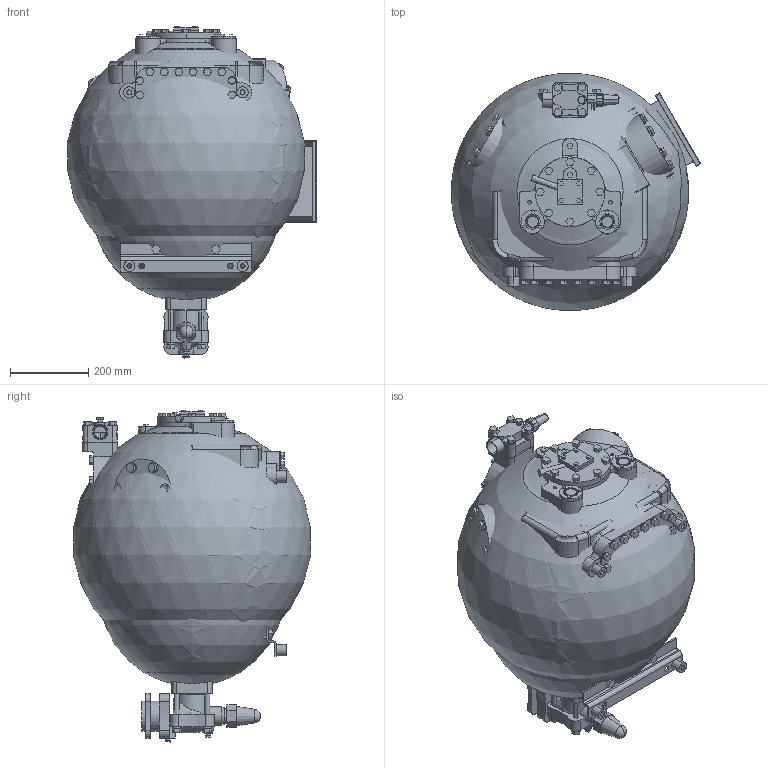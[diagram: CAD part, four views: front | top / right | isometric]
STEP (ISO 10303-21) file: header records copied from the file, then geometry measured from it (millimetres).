
FILE_DESCRIPTION((''),'2;1');
FILE_NAME('PRT0001','2004-01-23T',('kannanb'),(''),'PRO/ENGINEER BY PARAMETRIC TECHNOLOGY CORPORATION, 2001280','PRO/ENGINEER BY PARAMETRIC TECHNOLOGY CORPORATION, 2001280','');
FILE_SCHEMA(('CONFIG_CONTROL_DESIGN','SHAPE_APPEARANCE_LAYERS_GROUPS'));
Products named in the file (1): PRT0001
Bounding box: 635.65 x 605.1 x 846.75 mm (x, y, z)
Surface area: 7342102.4 mm2 (no closed solid volume)
Topology: 0 solids, 0 shells, 1317 faces, 6613 edges, 6589 vertices
Faces by surface type: bspline 1287, torus 17, sphere 13
Entity records: 125086 total; most frequent: CARTESIAN_POINT 49712, DIRECTION 9348, TRIMMED_CURVE 8498, VECTOR 7708, LINE 7708, DEFINITIONAL_REPRESENTATION 6562, PCURVE 6562, COMPOSITE_CURVE_SEGMENT 6562
